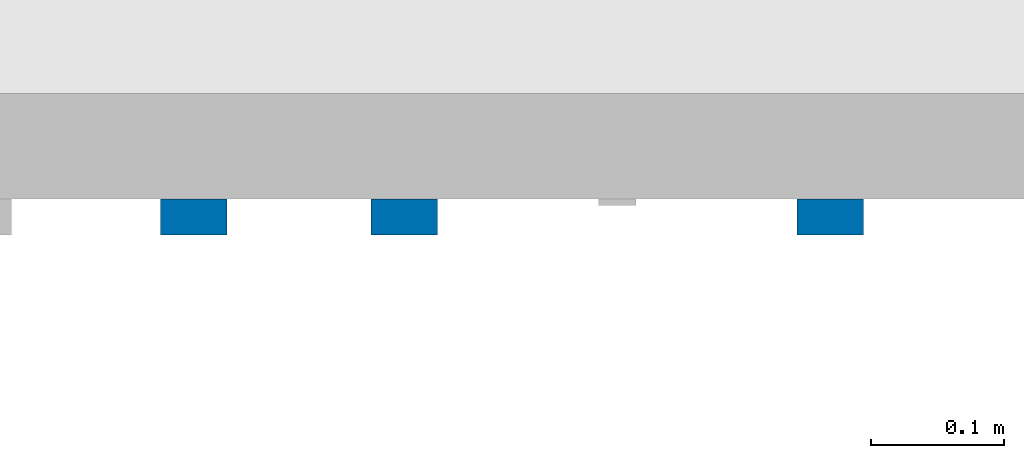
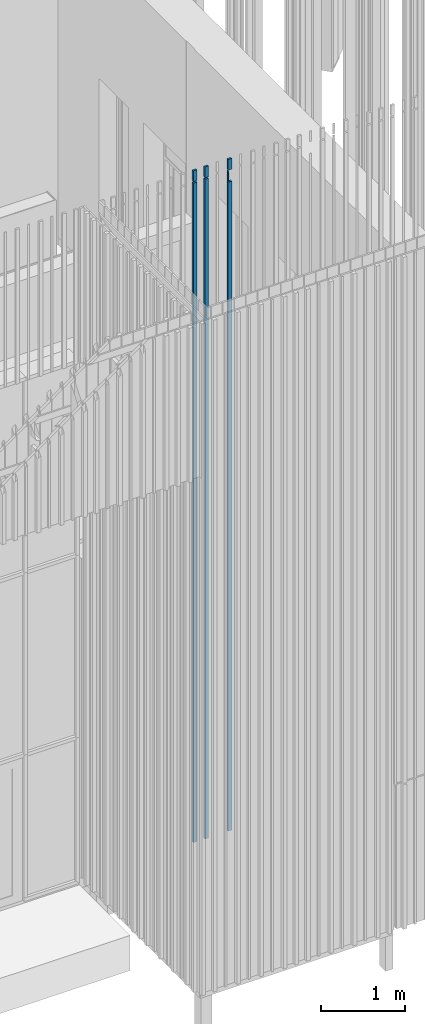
# One storey, part 159 of 390: 3 walls.
"""IFC2X3 building model written with IfcOpenShell, lengths in millimetres."""

import ifcopenshell
import ifcopenshell.guid

model = None  # the IFC model being written
_history = None  # IfcOwnerHistory: only IFC2X3 demands one
_inside = {}  # id of a spatial element -> (the spatial element, [elements in it])
_under = {}  # id of a project, library or spatial element -> (it, [spatial elements below it])
_declared = {}  # id of a project -> (the project, [libraries it declares])
_typed = {}  # id of a type object -> (the type object, [elements of that type])
_made_of = {}  # id of a material, layer set ... -> (it, [elements and type objects made of it])


def new_model(schema):
    """Start an empty IFC model of exactly this schema.

    Asked for "IFC4X3", IfcOpenShell would pick the latest addendum, in which some entities
    have other attributes; the version numbers below select the first issue.
    IFC2X3 requires an IfcOwnerHistory on every rooted entity: one is made here for all.
    """
    global model, _history
    if schema == "IFC4X3":
        model = ifcopenshell.file(schema_version=(4, 3, 0, 0))
    else:
        model = ifcopenshell.file(schema=schema)
    _inside.clear()
    _under.clear()
    _declared.clear()
    _typed.clear()
    _made_of.clear()
    _history = None
    if model.schema == "IFC2X3":
        org = make("IfcOrganization", Name="unknown")
        user = make(
            "IfcPersonAndOrganization",
            ThePerson=make("IfcPerson", FamilyName="unknown"),
            TheOrganization=org,
        )
        app = make(
            "IfcApplication",
            ApplicationDeveloper=org,
            Version="unknown",
            ApplicationFullName="unknown",
            ApplicationIdentifier="unknown",
        )
        _history = make(
            "IfcOwnerHistory",
            OwningUser=user,
            OwningApplication=app,
            ChangeAction="ADDED",
            CreationDate=0,
        )
    return model


def make(cls, **values):
    """One entity of the class cls with the attributes given. An attribute that is None is left unset."""
    return model.create_entity(
        cls, **{name: value for name, value in values.items() if value is not None}
    )


def entity(cls, *values):
    """Any entity or typed value of the class cls, its attributes in the order of the schema. None: left unset."""
    e = model.create_entity(cls)
    for i, value in enumerate(values):
        if value is not None:
            e[i] = value
    return e


def rooted(cls, **values):
    """An entity with a GlobalId (a new one), such as an element, a storey or a relation."""
    return make(cls, GlobalId=ifcopenshell.guid.new(), OwnerHistory=_history, **values)


def si_unit(unit_type, name, prefix=None):
    """IfcSIUnit, for example si_unit("LENGTHUNIT", "METRE", prefix="MILLI")."""
    return make("IfcSIUnit", UnitType=unit_type, Prefix=prefix, Name=name)


def converted_unit(unit_type, name, factor, base, dimensions=None, offset=None):
    """IfcConversionBasedUnit, such as the inch: factor (a typed value) times the base unit."""
    return make(
        "IfcConversionBasedUnit"
        if offset is None
        else "IfcConversionBasedUnitWithOffset",
        ConversionOffset=offset,
        Dimensions=None
        if dimensions is None
        else entity("IfcDimensionalExponents", *dimensions),
        UnitType=unit_type,
        Name=name,
        ConversionFactor=make(
            "IfcMeasureWithUnit", ValueComponent=factor, UnitComponent=base
        ),
    )


def derived_unit(unit_type, elements):
    """IfcDerivedUnit: a product of units, each with its exponent."""
    return make(
        "IfcDerivedUnit",
        Elements=[
            make("IfcDerivedUnitElement", Unit=unit, Exponent=power)
            for unit, power in elements
        ],
        UnitType=unit_type,
    )


def money_unit(currency):
    """IfcMonetaryUnit."""
    return make("IfcMonetaryUnit", Currency=currency)


def assignment(units):
    """IfcUnitAssignment: the units of a project."""
    return None if units is None else make("IfcUnitAssignment", Units=units)


def point(xyz):
    """IfcCartesianPoint."""
    return None if xyz is None else make("IfcCartesianPoint", Coordinates=xyz)


def direction(xyz):
    """IfcDirection."""
    return None if xyz is None else make("IfcDirection", DirectionRatios=xyz)


def frame(location, z_axis=None, x_axis=None):
    """IfcAxis2Placement3D, a coordinate frame: its origin and axes. An axis left out is left unset."""
    return make(
        "IfcAxis2Placement3D",
        Location=point(location),
        Axis=direction(z_axis),
        RefDirection=direction(x_axis),
    )


def origin_with_axes():
    """The frame at (0, 0, 0) with the z axis (0, 0, 1) and the x axis (1, 0, 0) written out."""
    return frame((0.0, 0.0, 0.0), z_axis=(0.0, 0.0, 1.0), x_axis=(1.0, 0.0, 0.0))


def place(relative_to, where):
    """IfcLocalPlacement: puts the frame where relative to a parent placement (None: the world)."""
    return make(
        "IfcLocalPlacement", PlacementRelTo=relative_to, RelativePlacement=where
    )


def context(
    kind, dimensions, precision=None, world=None, true_north=None, identifier=None
):
    """IfcGeometricRepresentationContext, for example the 3D "Model" context."""
    return make(
        "IfcGeometricRepresentationContext",
        ContextIdentifier=identifier,
        ContextType=kind,
        CoordinateSpaceDimension=dimensions,
        Precision=precision,
        WorldCoordinateSystem=world,
        TrueNorth=true_north,
    )


def subcontext(parent, identifier, kind, view, scale=None):
    """IfcGeometricRepresentationSubContext, for example "Body" below "Model"."""
    return make(
        "IfcGeometricRepresentationSubContext",
        ContextIdentifier=identifier,
        ContextType=kind,
        ParentContext=parent,
        TargetScale=scale,
        TargetView=view,
    )


def project(units=None, contexts=None):
    """IfcProject with its units and contexts."""
    return rooted(
        "IfcProject",
        Name="project",
        RepresentationContexts=contexts,
        UnitsInContext=assignment(units),
    )


def spatial(cls, under=None, at=None, **own):
    """A site, building, storey or space (cls), placed at a placement, below another one or the project."""
    s = rooted(cls, ObjectPlacement=at, **own)
    if under is not None:
        _under.setdefault(under.id(), (under, []))[1].append(s)
    return s


def faces_of(points, faces, orient=None, outer=None):
    """IfcFace entities. A face is a list of loops; a loop is a list of indices into points, from 0.

    orient and outer hold one flag for each loop. By default every Orientation is true, the
    first loop of a face is its IfcFaceOuterBound and the others are IfcFaceBound.
    """
    made = []
    for i, loops in enumerate(faces):
        bounds = []
        for j, loop in enumerate(loops):
            is_outer = j == 0 if outer is None else outer[i][j]
            bounds.append(
                make(
                    "IfcFaceOuterBound" if is_outer else "IfcFaceBound",
                    Bound=make("IfcPolyLoop", Polygon=[points[k] for k in loop]),
                    Orientation=True if orient is None else orient[i][j],
                )
            )
        made.append(make("IfcFace", Bounds=bounds))
    return made


def faceted_brep(points, faces, orient=None, outer=None, voids=None):
    """IfcFacetedBrep: a solid bounded by flat faces; with voids (closed shells), ...WithVoids."""
    shared = [point(p) for p in points]
    hull = make("IfcClosedShell", CfsFaces=faces_of(shared, faces, orient, outer))
    if voids is None:
        return make("IfcFacetedBrep", Outer=hull)
    return make(
        "IfcFacetedBrepWithVoids",
        Outer=hull,
        Voids=[
            make(cls, CfsFaces=faces_of(shared, fs, o, b)) for cls, fs, o, b in voids
        ],
    )


def shape(context_of_items, identifier, shape_type, items):
    """IfcShapeRepresentation: the items that make up one representation, for example the "Body"."""
    return make(
        "IfcShapeRepresentation",
        ContextOfItems=context_of_items,
        RepresentationIdentifier=identifier,
        RepresentationType=shape_type,
        Items=items,
    )


def material(Name=None, Category=None):
    """IfcMaterial."""
    return make("IfcMaterial", Name=Name, Category=Category)


def material_list(materials):
    """IfcMaterialList."""
    return make("IfcMaterialList", Materials=materials)


def made_of(thing, what):
    """Note that an element or type object is made of a material, layer set ...; save() writes the relation."""
    if what is not None:
        _made_of.setdefault(what.id(), (what, []))[1].append(thing)
    return thing


def type_object(cls, material=None, **own):
    """A type object (cls), such as IfcWallType, which elements share."""
    return made_of(rooted(cls, **own), material)


def element(
    cls,
    number,
    at=None,
    inside=None,
    cuts=None,
    type_object=None,
    material=None,
    context=None,
    identifier="Body",
    shape_type=None,
    held_by="IfcProductDefinitionShape",
    body=None,
    shapes=None,
    **own,
):
    """One element of the class cls, such as IfcWall. Its Tag is "e" and its number.

    at: its placement. inside: the storey or other place that contains it. cuts: it is an
    opening in that element (IfcRelVoidsElement). A single representation is given by context,
    identifier, shape_type and body (its items); several are given by shapes. held_by: the class
    of the entity that holds the representations. save() writes the other relations.
    """
    e = rooted(cls, Tag="e%d" % number, ObjectPlacement=at, **own)
    if body is not None:
        shapes = [shape(context, identifier, shape_type, body)]
    if shapes is not None:
        e.Representation = make(held_by, Representations=shapes)
    if inside is not None:
        _inside.setdefault(inside.id(), (inside, []))[1].append(e)
    if cuts is not None:
        rooted(
            "IfcRelVoidsElement", RelatingBuildingElement=cuts, RelatedOpeningElement=e
        )
    if type_object is not None:
        _typed.setdefault(type_object.id(), (type_object, []))[1].append(e)
    return made_of(e, material)


def aggregate(whole, parts):
    """IfcRelAggregates: a whole, such as a stair, and the parts it consists of."""
    return rooted("IfcRelAggregates", RelatingObject=whole, RelatedObjects=parts)


def save(model, path):
    """Write the relations noted so far, then the file.

    IfcRelAggregates (storeys below a building ...), IfcRelContainedInSpatialStructure (elements
    in a storey), IfcRelDefinesByType, IfcRelAssociatesMaterial and IfcRelDeclares: one each for
    every whole, place, type object, material and project.
    """
    for whole, parts in _under.values():
        aggregate(whole, parts)
    for where, things in _inside.values():
        rooted(
            "IfcRelContainedInSpatialStructure",
            RelatedElements=things,
            RelatingStructure=where,
        )
    for kind, things in _typed.values():
        rooted("IfcRelDefinesByType", RelatedObjects=things, RelatingType=kind)
    for what, things in _made_of.values():
        rooted("IfcRelAssociatesMaterial", RelatedObjects=things, RelatingMaterial=what)
    for by, libraries in _declared.values():
        rooted("IfcRelDeclares", RelatingContext=by, RelatedDefinitions=libraries)
    model.write(path)


model = new_model("IFC2X3")

# Units and contexts
model_context = context("Model", 3, precision=1e-05, world=origin_with_axes(), true_north=direction((0.0, 1.0)))
body_context = subcontext(model_context, "Body", "Model", "MODEL_VIEW")
ifc_project = project(units=[si_unit("LENGTHUNIT", "METRE", prefix="MILLI"), si_unit("AREAUNIT", "SQUARE_METRE"), si_unit("VOLUMEUNIT", "CUBIC_METRE"), converted_unit("PLANEANGLEUNIT", "DEGREE", entity("IfcPlaneAngleMeasure", 0.0174532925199), si_unit("PLANEANGLEUNIT", "RADIAN"), dimensions=[0, 0, 0, 0, 0, 0, 0]), si_unit("SOLIDANGLEUNIT", "STERADIAN"), money_unit("EUR"), converted_unit("TIMEUNIT", "Year", entity("IfcTimeMeasure", 31556926.0), si_unit("TIMEUNIT", "SECOND"), dimensions=[0, 0, 1, 0, 0, 0, 0]), si_unit("MASSUNIT", "GRAM", prefix="KILO"), si_unit("THERMODYNAMICTEMPERATUREUNIT", "DEGREE_CELSIUS"), si_unit("LUMINOUSINTENSITYUNIT", "LUMEN"), si_unit("ENERGYUNIT", "JOULE", prefix="MEGA"), derived_unit("THERMALCONDUCTANCEUNIT", [(si_unit("POWERUNIT", "WATT"), 1), (si_unit("LENGTHUNIT", "METRE"), -1), (si_unit("THERMODYNAMICTEMPERATUREUNIT", "KELVIN"), -1)]), derived_unit("SPECIFICHEATCAPACITYUNIT", [(si_unit("ENERGYUNIT", "JOULE"), 1), (si_unit("MASSUNIT", "GRAM", prefix="KILO"), -1), (si_unit("THERMODYNAMICTEMPERATUREUNIT", "KELVIN"), -1)]), derived_unit("MASSDENSITYUNIT", [(si_unit("MASSUNIT", "GRAM", prefix="KILO"), 1), (si_unit("VOLUMEUNIT", "CUBIC_METRE"), -1)])], contexts=[model_context])

# Site, building, storey
site_placement = place(None, origin_with_axes())
site = spatial("IfcSite", under=ifc_project, at=site_placement, Name="Site", CompositionType="ELEMENT")
building_placement = place(site_placement, origin_with_axes())
building = spatial("IfcBuilding", under=site, at=building_placement, Name="Building", CompositionType="ELEMENT")
storey_placement = place(building_placement, origin_with_axes())
storey = spatial("IfcBuildingStorey", under=building, at=storey_placement, Name="1 korrus", CompositionType="ELEMENT", Elevation=0.0)

# Walls
ifc_material = material(Name="Site specified")
ifc_material_list = material_list([ifc_material, ifc_material])
wall_type = type_object("IfcWallType", Name="Puitfassaadi ribistik", PredefinedType="NOTDEFINED")
wall_1_placement = place(storey_placement, frame((134426.000037, 45260.9998268, 100.000000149), z_axis=(0.0, 0.0, 1.0), x_axis=(-1.0, 0.0, 0.0)))
element("IfcWall", 1, at=wall_1_placement, inside=storey, type_object=wall_type, material=ifc_material_list, Name="Site specified", context=body_context, shape_type="Brep", body=[
    faceted_brep([(25.0, -2.00008530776, -3.12924797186e-06), (25.0, -2.00018162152, 9591.91725957), (-25.0, -2.00018162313, 9591.91725957), (-25.0, -2.00008530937, -3.12924797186e-06), (25.0, 25.0, 0.0), (25.0, 25.0, 9586.1781938), (-25.0, 25.0, 9586.1781938), (-25.0, 25.0, 0.0)], [[[0, 1, 2, 3]], [[4, 5, 1, 0]], [[5, 6, 2, 1]], [[3, 2, 6, 7]], [[0, 3, 7, 4]], [[7, 6, 5, 4]]]),
    faceted_brep([(-25.0, 25.0, 9764.99999985), (-25.0, 25.0, 9607.64734629), (-25.0, -2.0001816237, 9613.38641206), (-25.0, -2.0001816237, 9764.99999985), (25.0, 25.0, 9764.99999985), (25.0, 25.0, 9607.64734629), (25.0, -2.00018162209, 9613.38641206), (25.0, -2.00018162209, 9764.99999985)], [[[0, 1, 2, 3]], [[4, 5, 1, 0]], [[5, 6, 2, 1]], [[3, 2, 6, 7]], [[3, 7, 4, 0]], [[7, 6, 5, 4]]]),
])
wall_2_placement = place(storey_placement, frame((134584.000037, 45260.9999067, 100.000000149), z_axis=(0.0, 0.0, 1.0), x_axis=(-1.0, 0.0, 0.0)))
element("IfcWall", 2, at=wall_2_placement, inside=storey, type_object=wall_type, material=ifc_material_list, Name="Site specified", context=body_context, shape_type="Brep", body=[
    faceted_brep([(25.0, -2.0000053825, -3.12924797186e-06), (25.0, -2.00010169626, 9591.91725957), (-25.0, -2.00010169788, 9591.91725957), (-25.0, -2.00000538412, -3.12924797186e-06), (25.0, 25.0, 0.0), (25.0, 25.0, 9586.17821079), (-25.0, 25.0, 9586.17821079), (-25.0, 25.0, 0.0)], [[[0, 1, 2, 3]], [[4, 5, 1, 0]], [[5, 6, 2, 1]], [[3, 2, 6, 7]], [[0, 3, 7, 4]], [[7, 6, 5, 4]]]),
    faceted_brep([(-25.0, 25.0, 9764.99999985), (-25.0, 25.0, 9607.64736328), (-25.0, -2.00010169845, 9613.38641206), (-25.0, -2.00010169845, 9764.99999985), (25.0, 25.0, 9764.99999985), (25.0, 25.0, 9607.64736328), (25.0, -2.00010169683, 9613.38641206), (25.0, -2.00010169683, 9764.99999985)], [[[0, 1, 2, 3]], [[4, 5, 1, 0]], [[5, 6, 2, 1]], [[3, 2, 6, 7]], [[3, 7, 4, 0]], [[7, 6, 5, 4]]]),
])
wall_3_placement = place(storey_placement, frame((134904.000037, 45260.9999067, 100.000000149), z_axis=(0.0, 0.0, 1.0), x_axis=(-1.0, 0.0, 0.0)))
element("IfcWall", 3, at=wall_3_placement, inside=storey, type_object=wall_type, material=ifc_material_list, Name="Site specified", context=body_context, shape_type="Brep", body=[
    faceted_brep([(-25.0, 25.0, 9764.99999985), (-25.0, 25.0, 9607.64736328), (-25.0, -2.00010169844, 9613.38641206), (-25.0, -2.00010169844, 9764.99999985), (25.0, 25.0, 9764.99999985), (25.0, 25.0, 9607.64736328), (25.0, -2.00010169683, 9613.38641206), (25.0, -2.00010169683, 9764.99999985)], [[[0, 1, 2, 3]], [[4, 5, 1, 0]], [[5, 6, 2, 1]], [[3, 2, 6, 7]], [[3, 7, 4, 0]], [[7, 6, 5, 4]]]),
    faceted_brep([(25.0, -2.00010169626, 9591.91725957), (13.9999998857, -1.9998546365, 9591.9184219), (13.9999998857, -2.00010169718, 9438.56736905), (-25.0, -2.00010169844, 9438.56736905), (-25.0, -2.00000538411, -3.12924797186e-06), (25.0, -2.0000053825, -3.12924797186e-06), (25.0, 25.0, 9586.17821079), (13.9999998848, 25.0002442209, 9586.17935976), (13.9999998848, 25.0, 9432.82830631), (-25.0, 25.0, 9432.82830631), (-25.0, 25.0, 0.0), (25.0, 25.0, 0.0)], [[[0, 1, 2, 3, 4, 5]], [[6, 7, 1, 0]], [[8, 2, 1, 7]], [[8, 9, 3, 2]], [[4, 3, 9, 10]], [[11, 5, 4, 10]], [[5, 11, 6, 0]], [[9, 8, 7, 6, 11, 10]]]),
])

save(model, "model.ifc")
